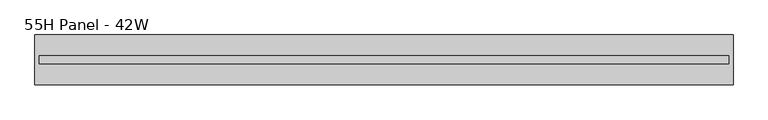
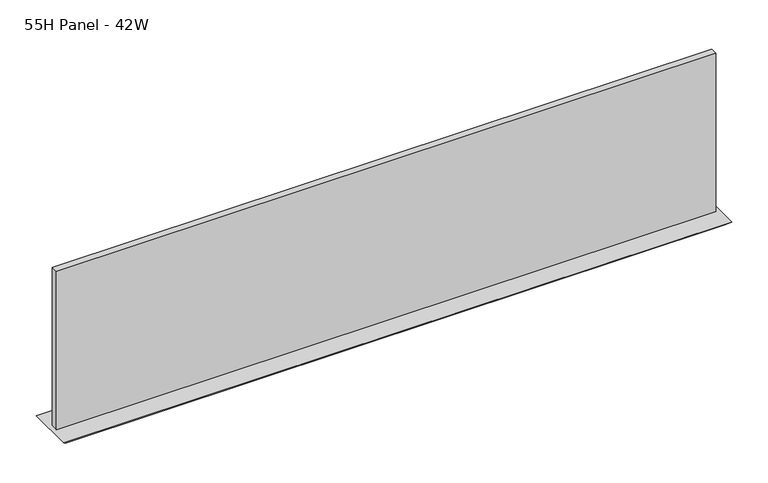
"""IFC4 building model written with IfcOpenShell, lengths in millimetres: furniture geometry, Steelcase - Montage - Tiles - 10H - Frameless Glass Stacker : 55H Panel - 42W."""

from ifc_helpers import new_model, si_unit, frame, origin, place, context, project, spatial, polyline, outline, extrude, faceted_brep, source, transform, mapped, element, save


def furniture_55h_panel_42w_252fbfad(model_context):
    return source(origin(), model_context, "Body", "SolidModel", [
        faceted_brep([(1066.8, -38.1000015, 1398.5875), (0.0, -38.1000015, 1398.5875), (6.35, -31.7500015, 1392.2375), (1060.45, -31.7500015, 1392.2375), (6.35, 31.7500015, 1392.2375), (1060.45, 31.7500015, 1392.2375), (0.0, 38.1000015, 1398.5875), (1066.8, 38.1000015, 1398.5875)], [[[0, 1, 2, 3]], [[3, 2, 4, 5]], [[6, 7, 5, 4]], [[1, 0, 7, 6]], [[2, 1, 6, 4]], [[0, 3, 5, 7]]]),
        extrude(outline(polyline([(1060.0181828, -5.9944001), (6.7818001, -5.9944001), (6.7818001, 5.9944008), (1060.0181828, 5.9944008), (1060.0181828, -5.9944001)])), frame((0.0, 0.0, 1398.5875), z_axis=(0.0, 0.0, 1.0), x_axis=(1.0, 0.0, 0.0)), (0.0, 0.0, 1.0), 267.7160475),
    ])


if __name__ == "__main__":
    model = new_model("IFC4")
    model_context = context("Model", 3, world=origin())
    ifc_project = project(units=[si_unit("LENGTHUNIT", "METRE", prefix="MILLI")], contexts=[model_context])
    site = spatial("IfcSite", under=ifc_project)
    building = spatial("IfcBuilding", under=site)
    placement = place(None, origin())
    furniture_55h_panel_42w_shape = furniture_55h_panel_42w_252fbfad(model_context)
    element("IfcFurniture", 1, ObjectType="Steelcase - Montage - Tiles - 10H - Frameless Glass Stacker : 55H Panel - 42W", at=placement, inside=building, context=model_context, shape_type="MappedRepresentation", body=[
        mapped(furniture_55h_panel_42w_shape, transform((0.0, 0.0, 0.0), x_axis=(1.0, 0.0, 0.0), y_axis=(0.0, 1.0, 0.0), z_axis=(0.0, 0.0, 1.0))),
    ])
    save(model, "model.ifc")
